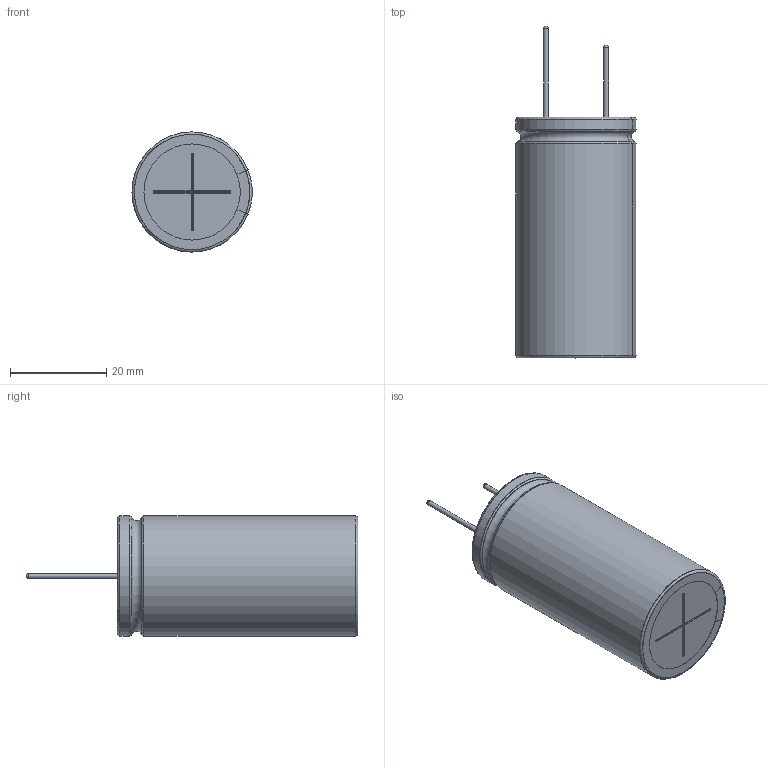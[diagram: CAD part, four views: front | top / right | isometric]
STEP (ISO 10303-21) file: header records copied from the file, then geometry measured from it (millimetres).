
FILE_DESCRIPTION(/* description */ (''),/* implementation_level */ '2;1');
FILE_NAME(/* name */ '25x50_Lead.stp',/* time_stamp */ '2017-09-06T16:21:35+09:00',/* author */ (''),/* organization */ (''),/* preprocessor_version */ 'ST-DEVELOPER v16',/* originating_system */ 'SIEMENS PLM Software NX 11.0',/* authorisation */ '');
FILE_SCHEMA (('AUTOMOTIVE_DESIGN { 1 0 10303 214 3 1 1 1 }'));
Length unit declared in the file: millimetre
Products named in the file (1): 25x50_Lead_0
Bounding box: 24.96 x 69 x 25 mm (x, y, z)
Volume: 24395.7 mm3; surface area: 13556 mm2
Topology: 3 solids, 3 shells, 100 faces, 252 edges, 160 vertices
Faces by surface type: cylinder 36, plane 28, torus 26, sphere 6, bspline 4
Full cylindrical faces by diameter (mm): 1 x2, 24.8 x2
Entity records: 3386 total; most frequent: CARTESIAN_POINT 605, DIRECTION 566, ORIENTED_EDGE 468, AXIS2_PLACEMENT_3D 235, EDGE_CURVE 234, VERTEX_POINT 154, CIRCLE 130, EDGE_LOOP 114
